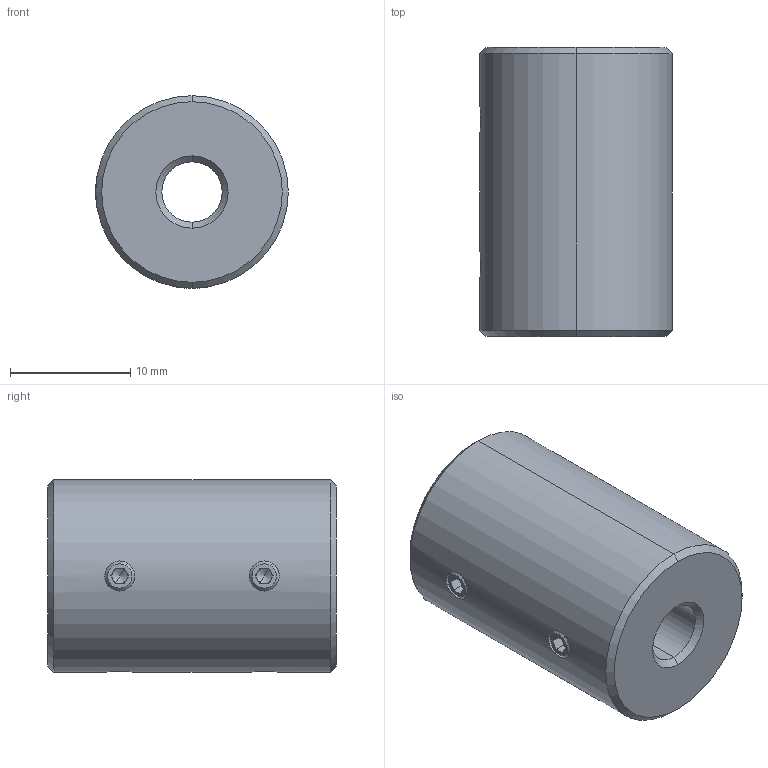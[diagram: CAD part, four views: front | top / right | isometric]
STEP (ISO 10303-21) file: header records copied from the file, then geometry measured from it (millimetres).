
FILE_DESCRIPTION (( 'STEP AP214' ), '1' );
FILE_NAME ('LL-D-D16L24-5-5.STEP', '2022-07-23T07:01:45', ( '' ), ( '' ), 'SwSTEP 2.0', 'SolidWorks 2022', '' );
FILE_SCHEMA (( 'AUTOMOTIVE_DESIGN' ));
Length unit declared in the file: millimetre
Products named in the file (1): LL-D-D16L24-5-5
Bounding box: 16 x 24 x 16 mm (x, y, z)
Volume: 4295.2 mm3; surface area: 2011.4 mm2
Topology: 1 solids, 1 shells, 110 faces, 280 edges, 172 vertices
Faces by surface type: plane 58, cone 32, cylinder 20
Entity records: 3582 total; most frequent: CARTESIAN_POINT 899, DIRECTION 566, ORIENTED_EDGE 544, EDGE_CURVE 272, AXIS2_PLACEMENT_3D 207, VERTEX_POINT 172, LINE 152, VECTOR 152
